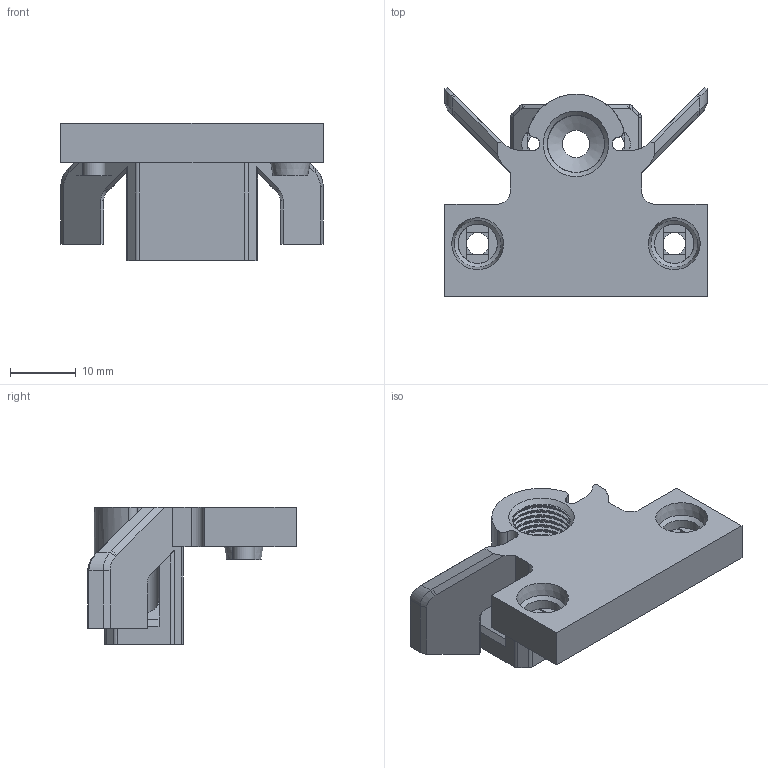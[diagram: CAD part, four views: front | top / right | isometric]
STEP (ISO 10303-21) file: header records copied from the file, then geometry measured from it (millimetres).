
FILE_DESCRIPTION(/* description */ (''),/* implementation_level */ '2;1');
FILE_NAME(/* name */ 'HMG7-Slice-Mosquito-Mount.step',/* time_stamp */ '2022-11-01T21:28:58-07:00',/* author */ (''),/* organization */ (''),/* preprocessor_version */ 'ST-DEVELOPER v19.2',/* originating_system */ 'Autodesk Translation Framework v11.17.0.187',/* authorisation */ '');
FILE_SCHEMA (('AUTOMOTIVE_DESIGN { 1 0 10303 214 3 1 1 }'));
Length unit declared in the file: millimetre
Products named in the file (3): GEN_7_1.5; Mosquito; Mosquito_Interface_Plate
Assembly tree (2 placements, depth 3):
  GEN_7_1.5
    Mosquito
      Mosquito_Interface_Plate
Bounding box: 40 x 31.8 x 20.93 mm (x, y, z)
Volume: 7403.3 mm3; surface area: 5232 mm2
Topology: 1 solids, 1 shells, 252 faces, 684 edges, 434 vertices
Faces by surface type: plane 126, bspline 68, cylinder 45, cone 13
Full cylindrical faces by diameter (mm): 2.7 x2, 3.4 x2, 4.2 x1, 4.6 x2, 6 x2, 9.728 x7
Entity records: 13003 total; most frequent: CARTESIAN_POINT 7016, ORIENTED_EDGE 1368, DIRECTION 1010, EDGE_CURVE 684, VERTEX_POINT 434, LINE 408, VECTOR 408, AXIS2_PLACEMENT_3D 301
